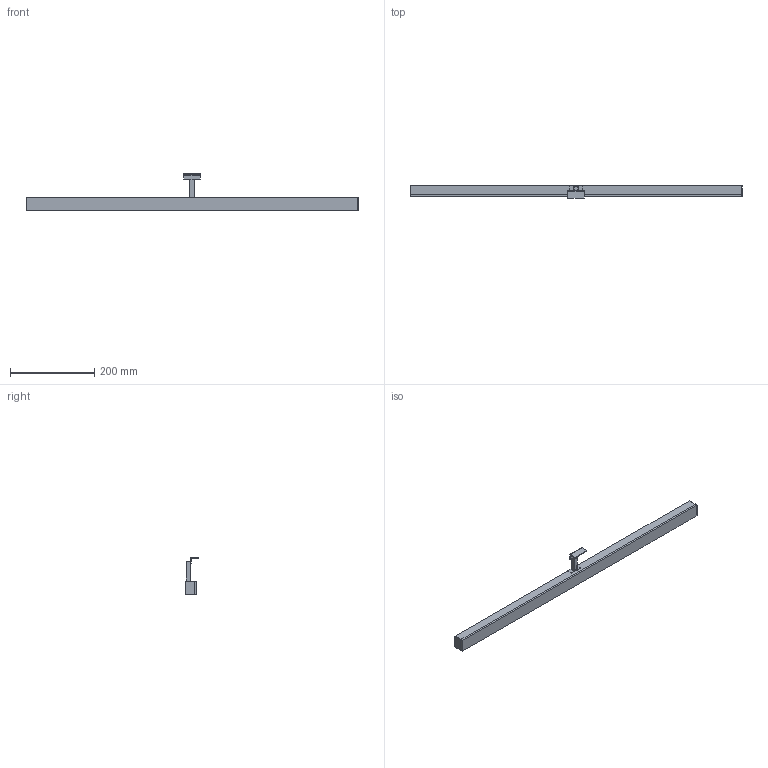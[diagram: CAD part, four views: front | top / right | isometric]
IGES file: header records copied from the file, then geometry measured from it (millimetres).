
Start section: SolidWorks IGES file using analytic representation for surfaces
Global section: file name: C:\Users\danielet\Desktop\3D CARLOS\DUSTIN-A356121-3D\DUSTIN-A356121-3D.IGS; native system: SolidWorks 2018; preprocessor: SolidWorks 2018; author: danielet; date: 220131.142110; units: millimetre
Bounding box: 790 x 29.5 x 88 mm (x, y, z)
Surface area: 149679.4 mm2 (no closed solid volume)
Topology: 0 solids, 0 shells, 52 faces, 300 edges, 300 vertices
Faces by surface type: bspline 46, revolution 6
